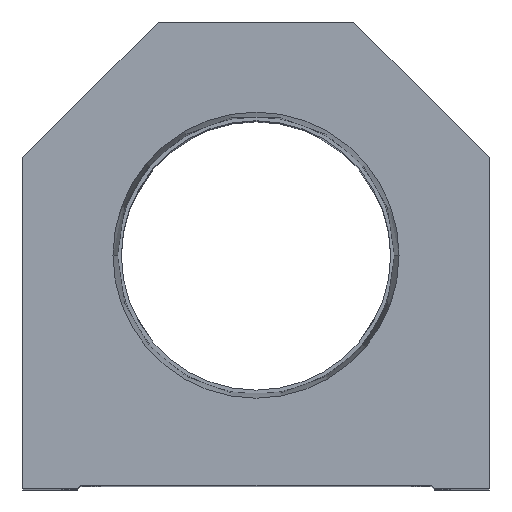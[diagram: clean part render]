
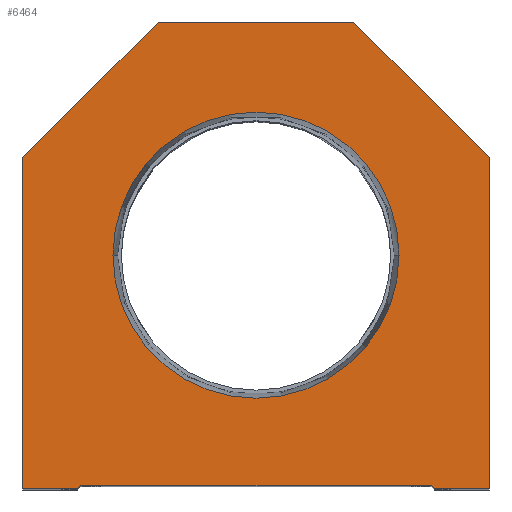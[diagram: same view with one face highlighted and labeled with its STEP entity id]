
A CAD part, top view. The second image highlights one B-rep face of the part: STEP entity #6464.
In plain terms, the highlighted planar face has unit normal (0, 0, 1).
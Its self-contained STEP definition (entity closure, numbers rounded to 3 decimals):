
#117 = CARTESIAN_POINT ( 'NONE',  ( 16., 76.2, 0. ) ) ;
#313 = LINE ( 'NONE', #117, #17284 ) ;
#729 = LINE ( 'NONE', #10161, #8863 ) ;
#764 = DIRECTION ( 'NONE',  ( 1., 0., 0. ) ) ;
#1204 = CARTESIAN_POINT ( 'NONE',  ( 14.55, 14.55, 0. ) ) ;
#1303 = VECTOR ( 'NONE', #13862, 1000. ) ;
#1372 = VERTEX_POINT ( 'NONE', #4576 ) ;
#1434 = CARTESIAN_POINT ( 'NONE',  ( 23.374, 38.1, 0. ) ) ;
#1492 = VERTEX_POINT ( 'NONE', #5087 ) ;
#1756 = VERTEX_POINT ( 'NONE', #9115 ) ;
#1828 = EDGE_CURVE ( 'NONE', #16889, #7068, #6328, .T. ) ;
#1910 = DIRECTION ( 'NONE',  ( 1., 0., 0. ) ) ;
#2139 = ORIENTED_EDGE ( 'NONE', *, *, #13149, .F. ) ;
#2192 = VECTOR ( 'NONE', #1910, 1000. ) ;
#2300 = ORIENTED_EDGE ( 'NONE', *, *, #8638, .T. ) ;
#2624 = CARTESIAN_POINT ( 'NONE',  ( -38.1, 0., 0. ) ) ;
#2793 = CARTESIAN_POINT ( 'NONE',  ( 29.1, 0., 0. ) ) ;
#2937 = VECTOR ( 'NONE', #11209, 1000. ) ;
#3001 = ORIENTED_EDGE ( 'NONE', *, *, #3090, .T. ) ;
#3090 = EDGE_CURVE ( 'NONE', #9321, #16260, #313, .T. ) ;
#3290 = VERTEX_POINT ( 'NONE', #1434 ) ;
#3334 = DIRECTION ( 'NONE',  ( 0.707, 0.707, 0. ) ) ;
#3484 = CARTESIAN_POINT ( 'NONE',  ( 28.6, 0., 0. ) ) ;
#3529 = DIRECTION ( 'NONE',  ( -0.707, -0.707, 0. ) ) ;
#3540 = DIRECTION ( 'NONE',  ( 0., 0., 1. ) ) ;
#3617 = CARTESIAN_POINT ( 'NONE',  ( 0., 38.1, 0. ) ) ;
#4028 = CARTESIAN_POINT ( 'NONE',  ( -28.6, 0., 0. ) ) ;
#4176 = CARTESIAN_POINT ( 'NONE',  ( 38.1, 54.1, 0. ) ) ;
#4180 = EDGE_CURVE ( 'NONE', #7067, #9321, #5796, .T. ) ;
#4317 = VECTOR ( 'NONE', #17351, 1000. ) ;
#4576 = CARTESIAN_POINT ( 'NONE',  ( -38.1, 54.1, 0. ) ) ;
#5087 = CARTESIAN_POINT ( 'NONE',  ( 28.6, 0.5, 0. ) ) ;
#5796 = LINE ( 'NONE', #4176, #2937 ) ;
#5856 = DIRECTION ( 'NONE',  ( 0., 0., 1. ) ) ;
#6104 = VERTEX_POINT ( 'NONE', #15905 ) ;
#6247 = ORIENTED_EDGE ( 'NONE', *, *, #7449, .T. ) ;
#6328 = LINE ( 'NONE', #3484, #4317 ) ;
#6464 = ADVANCED_FACE ( 'NONE', ( #9095, #15886 ), #7758, .T. ) ;
#6556 = CARTESIAN_POINT ( 'NONE',  ( -16., 76.2, 0. ) ) ;
#6838 = DIRECTION ( 'NONE',  ( -1., 0., 0. ) ) ;
#6879 = ORIENTED_EDGE ( 'NONE', *, *, #8533, .T. ) ;
#7067 = VERTEX_POINT ( 'NONE', #16520 ) ;
#7068 = VERTEX_POINT ( 'NONE', #10835 ) ;
#7372 = VECTOR ( 'NONE', #3529, 1000. ) ;
#7404 = CARTESIAN_POINT ( 'NONE',  ( -28.6, 0.5, 0. ) ) ;
#7449 = EDGE_CURVE ( 'NONE', #16260, #1372, #13166, .T. ) ;
#7483 = CARTESIAN_POINT ( 'NONE',  ( -38.1, 54.1, 0. ) ) ;
#7491 = LINE ( 'NONE', #7404, #2192 ) ;
#7758 = PLANE ( 'NONE',  #15126 ) ;
#8168 = AXIS2_PLACEMENT_3D ( 'NONE', #13085, #5856, #764 ) ;
#8533 = EDGE_CURVE ( 'NONE', #1372, #6104, #17768, .T. ) ;
#8638 = EDGE_CURVE ( 'NONE', #10319, #1756, #729, .T. ) ;
#8863 = VECTOR ( 'NONE', #3334, 1000. ) ;
#9009 = DIRECTION ( 'NONE',  ( 1., 0., 0. ) ) ;
#9095 = FACE_BOUND ( 'NONE', #10570, .T. ) ;
#9115 = CARTESIAN_POINT ( 'NONE',  ( -28.6, 0.5, 0. ) ) ;
#9321 = VERTEX_POINT ( 'NONE', #15515 ) ;
#10161 = CARTESIAN_POINT ( 'NONE',  ( -14.55, 14.55, 0. ) ) ;
#10260 = ORIENTED_EDGE ( 'NONE', *, *, #14780, .T. ) ;
#10319 = VERTEX_POINT ( 'NONE', #14008 ) ;
#10496 = CIRCLE ( 'NONE', #8168, 23.374 ) ;
#10570 = EDGE_LOOP ( 'NONE', ( #2139, #16108 ) ) ;
#10835 = CARTESIAN_POINT ( 'NONE',  ( 38.1, 0., 0. ) ) ;
#11209 = DIRECTION ( 'NONE',  ( -0.707, 0.707, 0. ) ) ;
#11646 = CIRCLE ( 'NONE', #12815, 23.374 ) ;
#11770 = EDGE_LOOP ( 'NONE', ( #17268, #2300, #10260, #14292, #14616, #13836, #17713, #3001, #6247, #6879 ) ) ;
#12092 = LINE ( 'NONE', #1204, #17771 ) ;
#12815 = AXIS2_PLACEMENT_3D ( 'NONE', #3617, #13432, #16231 ) ;
#13085 = CARTESIAN_POINT ( 'NONE',  ( 0., 38.1, 0. ) ) ;
#13149 = EDGE_CURVE ( 'NONE', #3290, #14135, #10496, .T. ) ;
#13166 = LINE ( 'NONE', #7483, #7372 ) ;
#13216 = EDGE_CURVE ( 'NONE', #14135, #3290, #11646, .T. ) ;
#13260 = CARTESIAN_POINT ( 'NONE',  ( 0., 0., 0. ) ) ;
#13432 = DIRECTION ( 'NONE',  ( 0., 0., 1. ) ) ;
#13836 = ORIENTED_EDGE ( 'NONE', *, *, #14520, .T. ) ;
#13862 = DIRECTION ( 'NONE',  ( 1., 0., 0. ) ) ;
#14008 = CARTESIAN_POINT ( 'NONE',  ( -29.1, 0., 0. ) ) ;
#14135 = VERTEX_POINT ( 'NONE', #16614 ) ;
#14292 = ORIENTED_EDGE ( 'NONE', *, *, #16385, .T. ) ;
#14302 = EDGE_CURVE ( 'NONE', #6104, #10319, #15320, .T. ) ;
#14520 = EDGE_CURVE ( 'NONE', #7068, #7067, #16070, .T. ) ;
#14616 = ORIENTED_EDGE ( 'NONE', *, *, #1828, .T. ) ;
#14625 = CARTESIAN_POINT ( 'NONE',  ( 38.1, 0., 0. ) ) ;
#14780 = EDGE_CURVE ( 'NONE', #1756, #1492, #7491, .T. ) ;
#15126 = AXIS2_PLACEMENT_3D ( 'NONE', #13260, #3540, #9009 ) ;
#15320 = LINE ( 'NONE', #4028, #1303 ) ;
#15515 = CARTESIAN_POINT ( 'NONE',  ( 16., 76.2, 0. ) ) ;
#15886 = FACE_OUTER_BOUND ( 'NONE', #11770, .T. ) ;
#15900 = DIRECTION ( 'NONE',  ( 0., 1., 0. ) ) ;
#15905 = CARTESIAN_POINT ( 'NONE',  ( -38.1, 0., 0. ) ) ;
#16070 = LINE ( 'NONE', #14625, #17139 ) ;
#16108 = ORIENTED_EDGE ( 'NONE', *, *, #13216, .F. ) ;
#16231 = DIRECTION ( 'NONE',  ( 1., 0., 0. ) ) ;
#16260 = VERTEX_POINT ( 'NONE', #6556 ) ;
#16385 = EDGE_CURVE ( 'NONE', #1492, #16889, #12092, .T. ) ;
#16520 = CARTESIAN_POINT ( 'NONE',  ( 38.1, 54.1, 0. ) ) ;
#16614 = CARTESIAN_POINT ( 'NONE',  ( -23.374, 38.1, 0. ) ) ;
#16889 = VERTEX_POINT ( 'NONE', #2793 ) ;
#17139 = VECTOR ( 'NONE', #15900, 1000. ) ;
#17268 = ORIENTED_EDGE ( 'NONE', *, *, #14302, .T. ) ;
#17284 = VECTOR ( 'NONE', #6838, 1000. ) ;
#17351 = DIRECTION ( 'NONE',  ( 1., 0., 0. ) ) ;
#17510 = VECTOR ( 'NONE', #17512, 1000. ) ;
#17512 = DIRECTION ( 'NONE',  ( 0., -1., 0. ) ) ;
#17713 = ORIENTED_EDGE ( 'NONE', *, *, #4180, .T. ) ;
#17768 = LINE ( 'NONE', #2624, #17510 ) ;
#17771 = VECTOR ( 'NONE', #17781, 1000. ) ;
#17781 = DIRECTION ( 'NONE',  ( 0.707, -0.707, 0. ) ) ;
